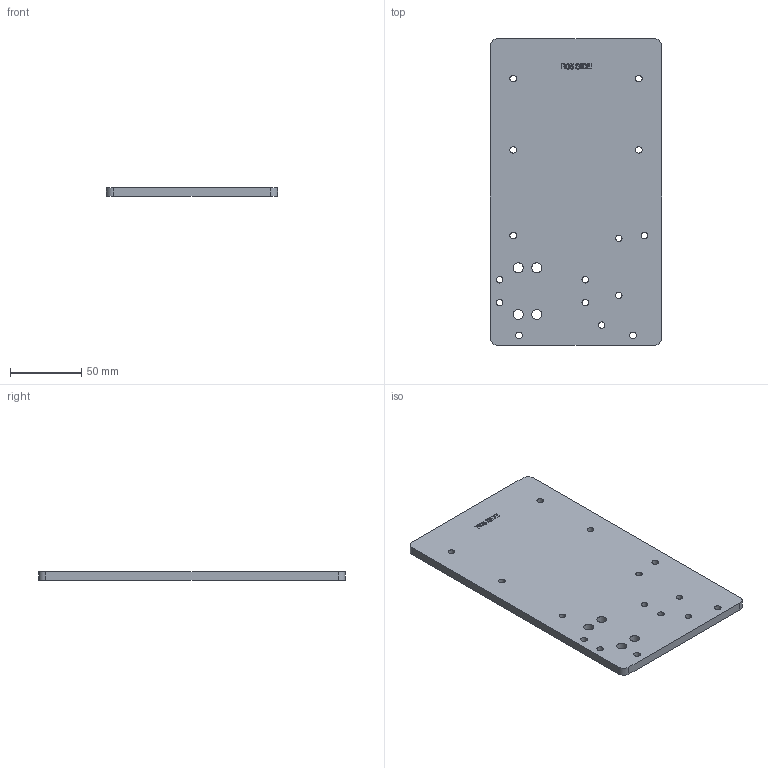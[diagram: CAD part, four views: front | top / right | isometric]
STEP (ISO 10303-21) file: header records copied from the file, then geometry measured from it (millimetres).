
FILE_DESCRIPTION(('Open CASCADE Model'),'2;1');
FILE_NAME('Open CASCADE Shape Model','2026-10-14T15:05:40',('Author'),( 'Open CASCADE'),'Open CASCADE STEP processor 7.8','Open CASCADE 7.8' ,'Unknown');
FILE_SCHEMA(('AUTOMOTIVE_DESIGN { 1 0 10303 214 1 1 1 1 }'));
Length unit declared in the file: millimetre
Products named in the file (1): Open CASCADE STEP translator 7.8 1
Bounding box: 120 x 215 x 6 mm (x, y, z)
Volume: 152251.4 mm3; surface area: 56609.4 mm2
Topology: 1 solids, 1 shells, 177 faces, 495 edges, 330 vertices
Faces by surface type: extrusion 93, plane 61, cylinder 23
Full cylindrical faces by diameter (mm): 4.5 x3, 4.6 x12, 7 x4
Entity records: 14578 total; most frequent: CARTESIAN_POINT 5665, DIRECTION 1199, ORIENTED_EDGE 990, PCURVE 990, DEFINITIONAL_REPRESENTATION 990, VECTOR 931, LINE 838, B_SPLINE_CURVE_WITH_KNOTS 648
